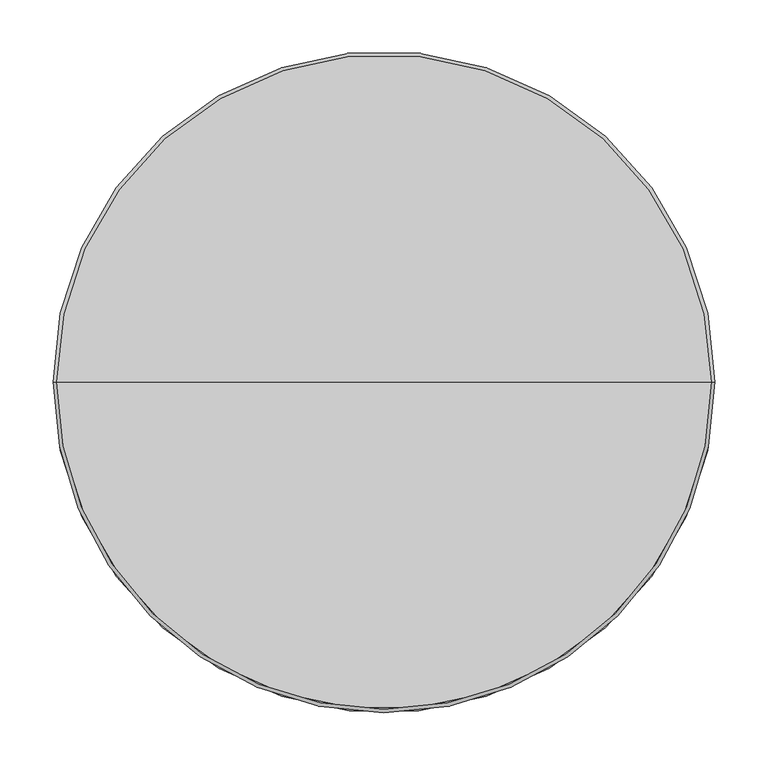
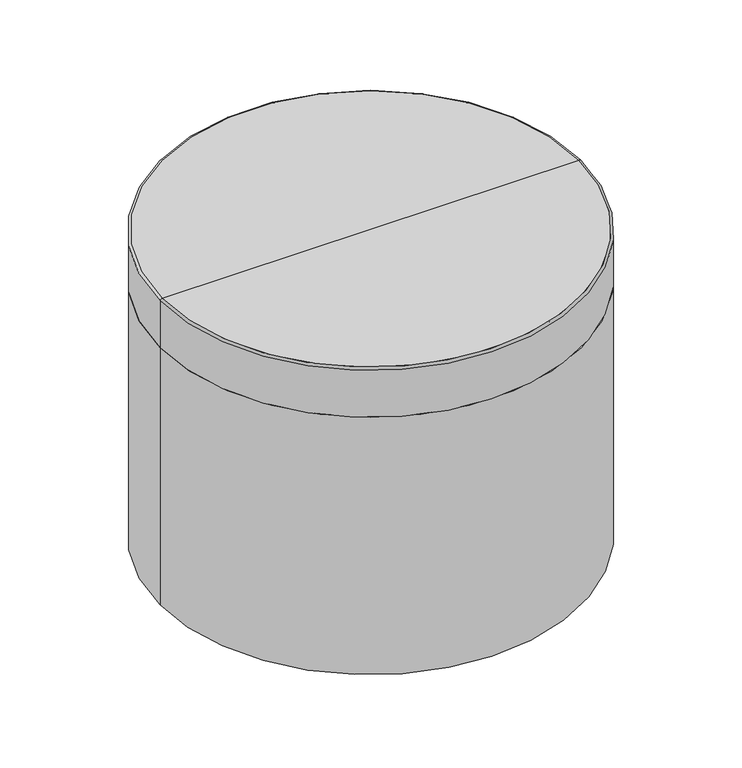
"""IFC4 building model written with IfcOpenShell, lengths in millimetres: furniture geometry, StanceHC-Drum_Table : 3-DRT24D20-U."""

from ifc_helpers import new_model, si_unit, point, frame, frame_2d, origin, origin_with_axes, place, context, project, spatial, circle_curve, ellipse_curve, trimmed, segment, composite_curve, outline, extrude, source, transform, mapped, element, save
from ifc_brep_helpers import plane_surface, cylinder_surface, revolved_surface, advanced_brep


def furniture_8fce106f(model_context):
    return source(origin(), model_context, "Body", "SolidModel", [
        extrude(outline(composite_curve([segment(trimmed(circle_curve(frame_2d((0.0, 250.1164845)), 12.7), [point((-12.7, 250.1164845))], [point((12.7, 250.1164845))], False, "CARTESIAN"), True, "CONTINUOUS"), segment(trimmed(circle_curve(frame_2d((0.0, 250.1164845)), 12.7), [point((12.7, 250.1164845))], [point((-12.7, 250.1164845))], False, "CARTESIAN"), True, "CONTINUOUS")], self_intersect=False)), origin_with_axes(), (0.0, 0.0, 1.0), 4.7625),
        extrude(outline(composite_curve([segment(trimmed(circle_curve(frame_2d((0.0, -250.1164845)), 12.7), [point((-12.7, -250.1164845))], [point((12.7, -250.1164845))], False, "CARTESIAN"), True, "CONTINUOUS"), segment(trimmed(circle_curve(frame_2d((0.0, -250.1164845)), 12.7), [point((12.7, -250.1164845))], [point((-12.7, -250.1164845))], False, "CARTESIAN"), True, "CONTINUOUS")], self_intersect=False)), origin_with_axes(), (0.0, 0.0, 1.0), 4.7625),
        extrude(outline(composite_curve([segment(trimmed(circle_curve(frame_2d((253.9996404, 0.0)), 12.7), [point((241.2996404, 0.0))], [point((266.6996404, 0.0))], False, "CARTESIAN"), True, "CONTINUOUS"), segment(trimmed(circle_curve(frame_2d((253.9996404, 0.0)), 12.7), [point((266.6996404, 0.0))], [point((241.2996404, 0.0))], False, "CARTESIAN"), True, "CONTINUOUS")], self_intersect=False)), origin_with_axes(), (0.0, 0.0, 1.0), 4.7625),
        extrude(outline(composite_curve([segment(trimmed(circle_curve(frame_2d((-253.9996404, 0.0)), 12.7), [point((-266.6996404, 0.0))], [point((-241.2996404, 0.0))], False, "CARTESIAN"), True, "CONTINUOUS"), segment(trimmed(circle_curve(frame_2d((-253.9996404, 0.0)), 12.7), [point((-241.2996404, 0.0))], [point((-266.6996404, 0.0))], False, "CARTESIAN"), True, "CONTINUOUS")], self_intersect=False)), origin_with_axes(), (0.0, 0.0, 1.0), 4.7625),
        advanced_brep(
        [(0.0, 0.0, 406.4), (311.15, 0.0, 406.4), (-311.15, 0.0, 406.4), (-311.15, 0.0, 4.7625), (311.15, 0.0, 4.7625), (0.0, 0.0, 4.7625)],
        [
            (0, 1),
            (1, 2, circle_curve(frame((0.0, 0.0, 406.4), z_axis=(0.0, 0.0, 1.0), x_axis=(1.0, 0.0, 0.0)), 311.15)),
            (2, 0),
            (2, 1, circle_curve(frame((0.0, 0.0, 406.4), z_axis=(0.0, 0.0, 1.0), x_axis=(1.0, 0.0, 0.0)), 311.15)),
            (3, 4, circle_curve(frame((0.0, 0.0, 4.7625), z_axis=(0.0, 0.0, -1.0), x_axis=(1.0, 0.0, 0.0)), 311.15)),
            (4, 5),
            (5, 3),
            (4, 3, circle_curve(frame((0.0, 0.0, 4.7625), z_axis=(0.0, 0.0, -1.0), x_axis=(1.0, 0.0, 0.0)), 311.15)),
            (1, 4),
            (3, 2),
        ],
        [
            plane_surface(frame((0.0, 0.0, 406.4), z_axis=(0.0, 0.0, 1.0), x_axis=(1.0, 0.0, 0.0))),
            plane_surface(frame((0.0, 0.0, 4.7625), z_axis=(0.0, 0.0, -1.0), x_axis=(1.0, 0.0, 0.0))),
            cylinder_surface(frame((0.0, 0.0, 558.8), z_axis=(0.0, 0.0, 1.0), x_axis=(1.0, 0.0, 0.0)), 311.15),
        ],
        [
            (0, [[1, 2, 3]]),
            (0, [[-3, 4, -1]]),
            (1, [[5, 6, 7]]),
            (1, [[8, -7, -6]]),
            (2, [[-2, 9, -5, 10]]),
            (2, [[-4, -10, -8, -9]]),
        ],
    ),
        advanced_brep(
        [(-311.15, 0.0, 406.4), (311.15, 0.0, 406.4), (0.0, 0.0, 406.4), (-311.15, 0.0, 479.4764933), (311.15, 0.0, 479.4764933), (-308.0264933, 0.0, 482.6), (308.0264933, 0.0, 482.6), (0.0, 0.0, 482.6)],
        [
            (0, 1, circle_curve(frame((0.0, 0.0, 406.4), z_axis=(0.0, 0.0, -1.0), x_axis=(1.0, 0.0, 0.0)), 311.15)),
            (1, 2),
            (2, 0),
            (1, 0, circle_curve(frame((0.0, 0.0, 406.4), z_axis=(0.0, 0.0, -1.0), x_axis=(1.0, 0.0, 0.0)), 311.15)),
            (3, 4, circle_curve(frame((0.0, 0.0, 479.4764933), z_axis=(0.0, 0.0, -1.0), x_axis=(1.0, 0.0, 0.0)), 311.15)),
            (4, 1),
            (0, 3),
            (4, 3, circle_curve(frame((0.0, 0.0, 479.4764933), z_axis=(0.0, 0.0, -1.0), x_axis=(1.0, 0.0, 0.0)), 311.15)),
            (5, 6, circle_curve(frame((0.0, 0.0, 482.6), z_axis=(0.0, 0.0, -1.0), x_axis=(1.0, 0.0, 0.0)), 308.0264933)),
            (6, 4, circle_curve(frame((308.0264933, 0.0, 479.4764933), z_axis=(0.0, 1.0, 0.0), x_axis=(1.0, 0.0, 0.0)), 3.1235067)),
            (3, 5, circle_curve(frame((-308.0264933, 0.0, 479.4764933), z_axis=(0.0, 1.0, 0.0), x_axis=(-1.0, 0.0, 0.0)), 3.1235067)),
            (6, 5, circle_curve(frame((0.0, 0.0, 482.6), z_axis=(0.0, 0.0, -1.0), x_axis=(1.0, 0.0, 0.0)), 308.0264933)),
            (7, 6),
            (5, 7),
        ],
        [
            plane_surface(frame((0.0, 0.0, 406.4), z_axis=(0.0, 0.0, -1.0), x_axis=(1.0, 0.0, 0.0))),
            cylinder_surface(frame((0.0, 0.0, 577.85), z_axis=(0.0, 0.0, 1.0), x_axis=(1.0, 0.0, 0.0)), 311.15),
            revolved_surface(trimmed(ellipse_curve(frame((308.0264933, 0.0, 479.4764933), z_axis=(0.0, -1.0, 0.0), x_axis=(1.0, 0.0, 0.0)), 3.1235067, 3.1235067), [point((311.15, 0.0, 479.4764933))], [point((308.0264933, 0.0, 482.6))], True, "CARTESIAN"), (0.0, 0.0, 577.85), (0.0, 0.0, 1.0)),
            plane_surface(frame((0.0, 0.0, 482.6), z_axis=(0.0, 0.0, 1.0), x_axis=(1.0, 0.0, 0.0))),
        ],
        [
            (0, [[1, 2, 3]]),
            (0, [[4, -3, -2]]),
            (1, [[5, 6, -1, 7]]),
            (1, [[8, -7, -4, -6]]),
            (2, [[9, 10, -5, 11]]),
            (2, [[12, -11, -8, -10]]),
            (3, [[13, -9, 14]]),
            (3, [[-14, -12, -13]]),
        ],
    ),
    ])


if __name__ == "__main__":
    model = new_model("IFC4")
    model_context = context("Model", 3, world=origin())
    ifc_project = project(units=[si_unit("LENGTHUNIT", "METRE", prefix="MILLI")], contexts=[model_context])
    site = spatial("IfcSite", under=ifc_project)
    building = spatial("IfcBuilding", under=site)
    placement = place(None, origin())
    furniture_shape = furniture_8fce106f(model_context)
    element("IfcFurniture", 1, ObjectType="StanceHC-Drum_Table : 3-DRT24D20-U", at=placement, inside=building, context=model_context, shape_type="MappedRepresentation", body=[
        mapped(furniture_shape, transform((0.0, 0.0, 0.0), x_axis=(1.0, 0.0, 0.0), y_axis=(0.0, 1.0, 0.0), z_axis=(0.0, 0.0, 1.0))),
    ])
    save(model, "model.ifc")
